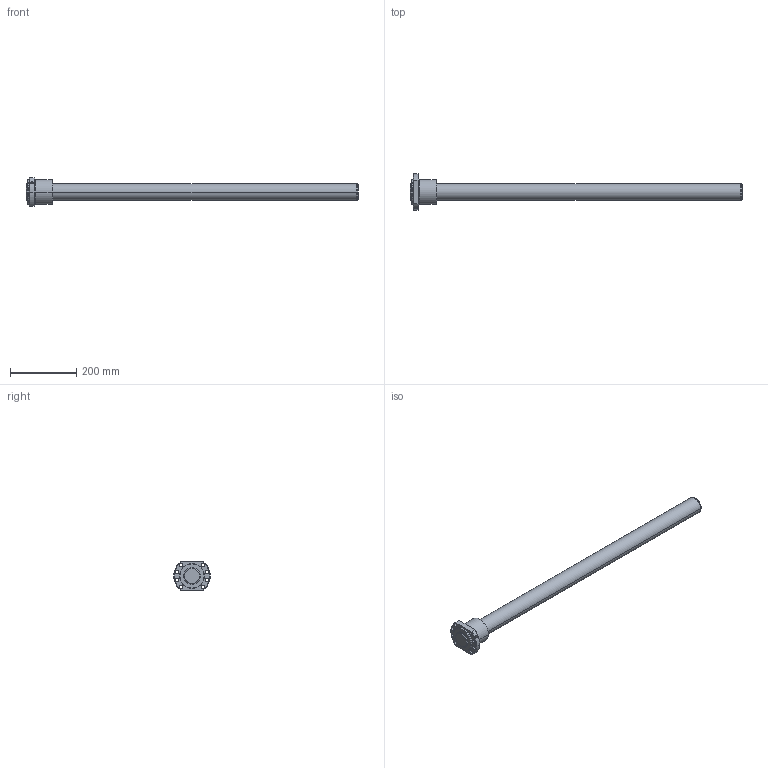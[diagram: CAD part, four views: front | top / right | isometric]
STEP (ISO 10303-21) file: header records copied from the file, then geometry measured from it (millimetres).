
FILE_DESCRIPTION( ( '' ), '1' );
FILE_NAME( 'C:/Users/v3-771-32344/Desktop/EBB STEP/EBB 5005-6 RRNone+1000L C7(915070)-ebb3.stp', '2015-08-27T13:41:35', ( '' ), ( '' ), ' ', ' ', ' ' );
FILE_SCHEMA( ( 'CONFIG_CONTROL_DESIGN' ) );
Length unit declared in the file: millimetre
Products named in the file (2): 1; 2
Bounding box: 1000 x 110 x 85 mm (x, y, z)
Volume: 2192847.4 mm3; surface area: 210718 mm2
Topology: 2 solids, 2 shells, 71 faces, 167 edges, 107 vertices
Faces by surface type: cylinder 40, cone 18, plane 13
Entity records: 2315 total; most frequent: CARTESIAN_POINT 497, DIRECTION 394, ORIENTED_EDGE 334, AXIS2_PLACEMENT_3D 167, EDGE_CURVE 167, VERTEX_POINT 107, EDGE_LOOP 98, CIRCLE 94
